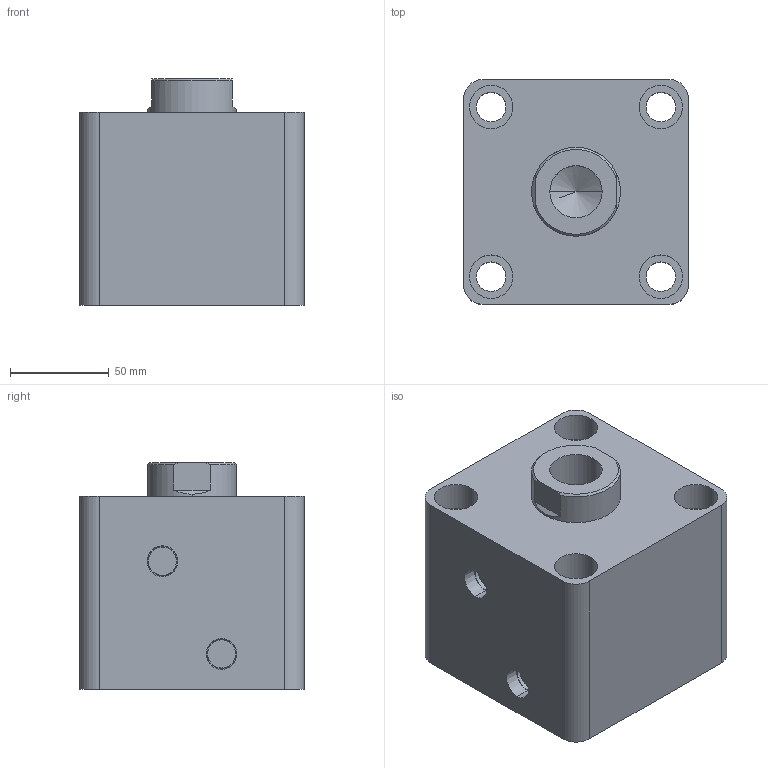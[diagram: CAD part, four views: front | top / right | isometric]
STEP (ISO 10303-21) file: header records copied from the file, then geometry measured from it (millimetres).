
FILE_DESCRIPTION (( 'STEP AP203' ), '1' );
FILE_NAME ('HTB-SD80-20N.STEP', '2019-10-07T08:14:22', ( '微软用户' ), ( '微软中国' ), 'SwSTEP 2.0', 'SolidWorks 2012', '' );
FILE_SCHEMA (( 'CONFIG_CONTROL_DESIGN' ));
Length unit declared in the file: millimetre
Products named in the file (3): HTB-SD80-20N; HTB-SD80-20N活塞杆; HTB-SD80-20掛极
Assembly tree (2 placements, depth 2):
  HTB-SD80-20N
    HTB-SD80-20掛极
    HTB-SD80-20N活塞杆
Bounding box: 114 x 114 x 115 mm (x, y, z)
Volume: 1104555.2 mm3; surface area: 143942.4 mm2
Topology: 2 solids, 2 shells, 83 faces, 184 edges, 119 vertices
Faces by surface type: cylinder 42, plane 27, cone 8, torus 6
Entity records: 2655 total; most frequent: DIRECTION 456, CARTESIAN_POINT 417, ORIENTED_EDGE 364, AXIS2_PLACEMENT_3D 194, EDGE_CURVE 182, VERTEX_POINT 119, EDGE_LOOP 107, CIRCLE 106
